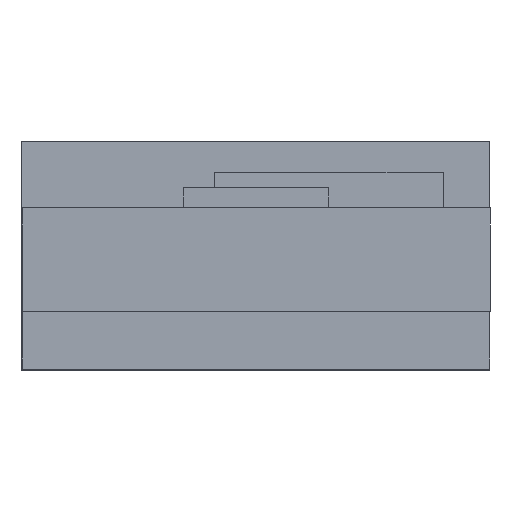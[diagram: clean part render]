
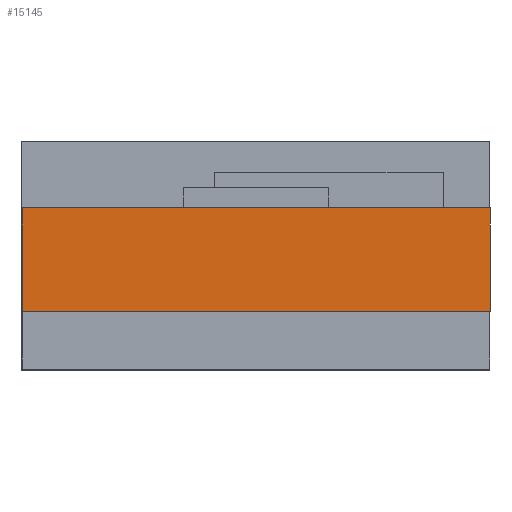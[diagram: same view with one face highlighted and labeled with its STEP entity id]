
A CAD part, top view. The second image highlights one B-rep face of the part: STEP entity #15145.
In plain terms, the highlighted planar face has unit normal (0, 0, 1).
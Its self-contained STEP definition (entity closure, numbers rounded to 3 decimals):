
#432 = CARTESIAN_POINT ( 'NONE',  ( 121.853, 20., 148.964 ) ) ;
#523 = EDGE_CURVE ( 'NONE', #8574, #13326, #6755, .T. ) ;
#1603 = CARTESIAN_POINT ( 'NONE',  ( 31.853, 20., 148.964 ) ) ;
#1710 = VECTOR ( 'NONE', #6661, 1000. ) ;
#2294 = CARTESIAN_POINT ( 'NONE',  ( 31.853, 20., 148.964 ) ) ;
#2460 = LINE ( 'NONE', #2294, #6397 ) ;
#2768 = DIRECTION ( 'NONE',  ( 0., 0., -1. ) ) ;
#4109 = DIRECTION ( 'NONE',  ( -1., 0., 0. ) ) ;
#4966 = VERTEX_POINT ( 'NONE', #13177 ) ;
#4972 = CARTESIAN_POINT ( 'NONE',  ( 31.853, 0., 148.964 ) ) ;
#5049 = DIRECTION ( 'NONE',  ( 1., 0., 0. ) ) ;
#5314 = LINE ( 'NONE', #12854, #1710 ) ;
#5370 = EDGE_LOOP ( 'NONE', ( #10552, #15357, #8175, #15634 ) ) ;
#6222 = EDGE_CURVE ( 'NONE', #8850, #13326, #9558, .T. ) ;
#6397 = VECTOR ( 'NONE', #5049, 1000. ) ;
#6661 = DIRECTION ( 'NONE',  ( 0., -1., 0. ) ) ;
#6755 = LINE ( 'NONE', #10688, #11690 ) ;
#8175 = ORIENTED_EDGE ( 'NONE', *, *, #12786, .F. ) ;
#8574 = VERTEX_POINT ( 'NONE', #4972 ) ;
#8850 = VERTEX_POINT ( 'NONE', #14102 ) ;
#9558 = LINE ( 'NONE', #432, #11698 ) ;
#10467 = FACE_OUTER_BOUND ( 'NONE', #5370, .T. ) ;
#10552 = ORIENTED_EDGE ( 'NONE', *, *, #523, .T. ) ;
#10646 = DIRECTION ( 'NONE',  ( 0., -1., 0. ) ) ;
#10688 = CARTESIAN_POINT ( 'NONE',  ( 31.853, 0., 148.964 ) ) ;
#11690 = VECTOR ( 'NONE', #14295, 1000. ) ;
#11698 = VECTOR ( 'NONE', #10646, 1000. ) ;
#11710 = EDGE_CURVE ( 'NONE', #4966, #8574, #5314, .T. ) ;
#12786 = EDGE_CURVE ( 'NONE', #4966, #8850, #2460, .T. ) ;
#12854 = CARTESIAN_POINT ( 'NONE',  ( 31.853, 20., 148.964 ) ) ;
#13177 = CARTESIAN_POINT ( 'NONE',  ( 31.853, 20., 148.964 ) ) ;
#13326 = VERTEX_POINT ( 'NONE', #15097 ) ;
#14102 = CARTESIAN_POINT ( 'NONE',  ( 121.853, 20., 148.964 ) ) ;
#14295 = DIRECTION ( 'NONE',  ( 1., 0., 0. ) ) ;
#15008 = AXIS2_PLACEMENT_3D ( 'NONE', #1603, #2768, #4109 ) ;
#15097 = CARTESIAN_POINT ( 'NONE',  ( 121.853, 0., 148.964 ) ) ;
#15145 = ADVANCED_FACE ( 'NONE', ( #10467 ), #15583, .F. ) ;
#15357 = ORIENTED_EDGE ( 'NONE', *, *, #6222, .F. ) ;
#15583 = PLANE ( 'NONE',  #15008 ) ;
#15634 = ORIENTED_EDGE ( 'NONE', *, *, #11710, .T. ) ;
